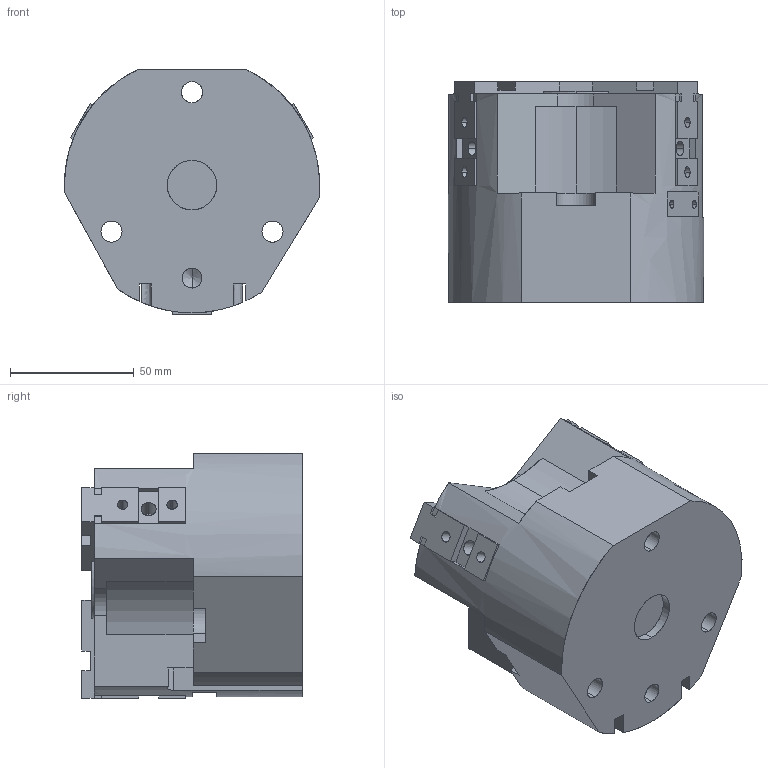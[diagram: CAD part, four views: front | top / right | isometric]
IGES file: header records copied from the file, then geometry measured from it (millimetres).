
Start section: SolidWorks IGES file using analytic representation for surfaces
Global section: file name: C:\Documents and Settings\SGA\Bureau\ROMAIN\OPE 105-3 S\OPE 105-3 S fermé.IGS; native system: SolidWorks 2010; preprocessor: SolidWorks 2010; author: SGA; date: 110928.095654; units: millimetre
Bounding box: 102.99 x 89 x 98.53 mm (x, y, z)
Surface area: 82177.2 mm2 (no closed solid volume)
Topology: 0 solids, 0 shells, 589 faces, 6692 edges, 6646 vertices
Faces by surface type: bspline 467, revolution 122
